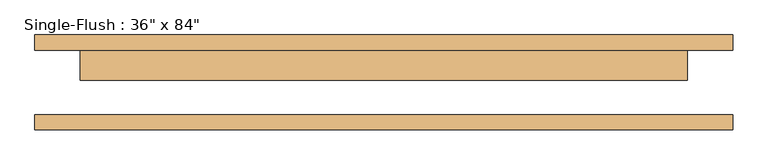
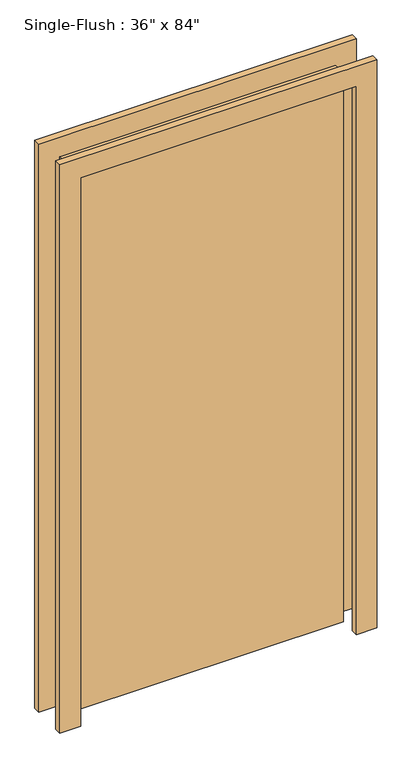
"""IFC4 building model written with IfcOpenShell, lengths in millimetres: door geometry."""

from ifc_helpers import new_model, si_unit, frame, origin, origin_with_axes, place, context, project, spatial, polyline, outline, extrude, source, transform, mapped, element, save


def door_97d772aa(model_context):
    return source(origin(), model_context, "Body", "SweptSolid", [
        extrude(outline(polyline([(2209.8, -584.2), (0.0, -584.2), (0.0, -508.0), (2133.6, -508.0), (2133.6, 508.0), (0.0, 508.0), (0.0, 584.2), (2209.8, 584.2), (2209.8, -584.2)])), frame((0.0, 53.975, 0.0), z_axis=(0.0, 1.0, 0.0), x_axis=(0.0, 0.0, 1.0)), (0.0, 0.0, 1.0), 25.4),
        extrude(outline(polyline([(2209.8, 584.2), (2209.8, -584.2), (0.0, -584.2), (0.0, -508.0), (2133.6, -508.0), (2133.6, 508.0), (0.0, 508.0), (0.0, 584.2), (2209.8, 584.2)])), frame((0.0, -79.375, 0.0), z_axis=(0.0, 1.0, 0.0), x_axis=(0.0, 0.0, 1.0)), (0.0, 0.0, 1.0), 25.4),
        extrude(outline(polyline([(508.0, 3.175), (-508.0, 3.175), (-508.0, 53.975), (508.0, 53.975), (508.0, 3.175)])), origin_with_axes(), (0.0, 0.0, 1.0), 2133.6),
    ])


if __name__ == "__main__":
    model = new_model("IFC4")
    model_context = context("Model", 3, world=origin())
    ifc_project = project(units=[si_unit("LENGTHUNIT", "METRE", prefix="MILLI")], contexts=[model_context])
    site = spatial("IfcSite", under=ifc_project)
    building = spatial("IfcBuilding", under=site)
    placement = place(None, origin())
    door_shape = door_97d772aa(model_context)
    element("IfcDoor", 1, ObjectType="Single-Flush : 36\" x 84\"", at=placement, inside=building, context=model_context, shape_type="MappedRepresentation", body=[
        mapped(door_shape, transform((0.0, 0.0, 0.0), x_axis=(1.0, 0.0, 0.0), y_axis=(0.0, 1.0, 0.0), z_axis=(0.0, 0.0, 1.0))),
    ])
    save(model, "model.ifc")
